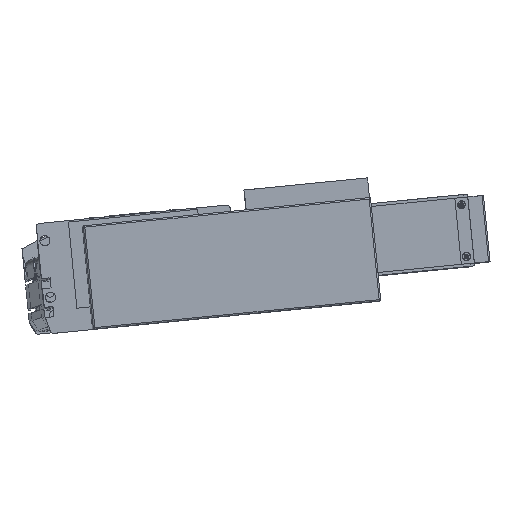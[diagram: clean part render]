
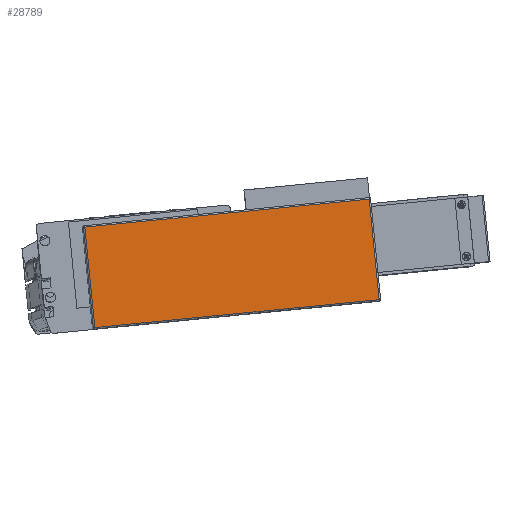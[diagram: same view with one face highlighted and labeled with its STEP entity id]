
A CAD part, top view. The second image highlights one B-rep face of the part: STEP entity #28789.
In plain terms, the highlighted planar face has unit normal (0.017, 0.003, 1) as drawn and (0, 0, 1) by its records, which use the part's own axes.
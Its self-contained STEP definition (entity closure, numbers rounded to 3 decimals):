
#28725 = EDGE_CURVE ( 'NONE', #28790, #28788, #51387, .T. ) ;
#28730 = ORIENTED_EDGE ( 'NONE', *, *, #28795, .T. ) ;
#28739 = EDGE_LOOP ( 'NONE', ( #28804, #28791, #28800, #28730 ) ) ;
#28788 = VERTEX_POINT ( 'NONE', #51511 ) ;
#28789 = ADVANCED_FACE ( 'NONE', ( #51550 ), #51551, .T. ) ;
#28790 = VERTEX_POINT ( 'NONE', #51505 ) ;
#28791 = ORIENTED_EDGE ( 'NONE', *, *, #28725, .T. ) ;
#28792 = EDGE_CURVE ( 'NONE', #28802, #28790, #51527, .T. ) ;
#28793 = VERTEX_POINT ( 'NONE', #51590 ) ;
#28795 = EDGE_CURVE ( 'NONE', #28793, #28802, #51582, .T. ) ;
#28797 = EDGE_CURVE ( 'NONE', #28788, #28793, #51577, .T. ) ;
#28800 = ORIENTED_EDGE ( 'NONE', *, *, #28797, .T. ) ;
#28802 = VERTEX_POINT ( 'NONE', #51560 ) ;
#28804 = ORIENTED_EDGE ( 'NONE', *, *, #28792, .T. ) ;
#49421 = DIRECTION ( 'NONE',  ( 1., 0., 0. ) ) ;
#51386 = CARTESIAN_POINT ( 'NONE',  ( 163.25, 72., 44. ) ) ;
#51387 = LINE ( 'NONE', #51386, #51427 ) ;
#51426 = DIRECTION ( 'NONE',  ( 0., 1., 0. ) ) ;
#51427 = VECTOR ( 'NONE', #51426, 1000. ) ;
#51502 = AXIS2_PLACEMENT_3D ( 'NONE', #51512, #51536, #51534 ) ;
#51505 = CARTESIAN_POINT ( 'NONE',  ( 163.25, 1., 44. ) ) ;
#51511 = CARTESIAN_POINT ( 'NONE',  ( 163.25, 71., 44. ) ) ;
#51512 = CARTESIAN_POINT ( 'NONE',  ( -35.75, 0., 44. ) ) ;
#51525 = VECTOR ( 'NONE', #49421, 1000. ) ;
#51526 = CARTESIAN_POINT ( 'NONE',  ( 164.25, 1., 44. ) ) ;
#51527 = LINE ( 'NONE', #51526, #51525 ) ;
#51534 = DIRECTION ( 'NONE',  ( 1., 0., 0. ) ) ;
#51536 = DIRECTION ( 'NONE',  ( 0., 0., 1. ) ) ;
#51550 = FACE_OUTER_BOUND ( 'NONE', #28739, .T. ) ;
#51551 = PLANE ( 'NONE',  #51502 ) ;
#51560 = CARTESIAN_POINT ( 'NONE',  ( -34.75, 1., 44. ) ) ;
#51567 = VECTOR ( 'NONE', #51587, 1000. ) ;
#51577 = LINE ( 'NONE', #51588, #51567 ) ;
#51579 = DIRECTION ( 'NONE',  ( 0., -1., 0. ) ) ;
#51580 = VECTOR ( 'NONE', #51579, 1000. ) ;
#51581 = CARTESIAN_POINT ( 'NONE',  ( -34.75, 0., 44. ) ) ;
#51582 = LINE ( 'NONE', #51581, #51580 ) ;
#51587 = DIRECTION ( 'NONE',  ( -1., 0., 0. ) ) ;
#51588 = CARTESIAN_POINT ( 'NONE',  ( -35.75, 71., 44. ) ) ;
#51590 = CARTESIAN_POINT ( 'NONE',  ( -34.75, 71., 44. ) ) ;
